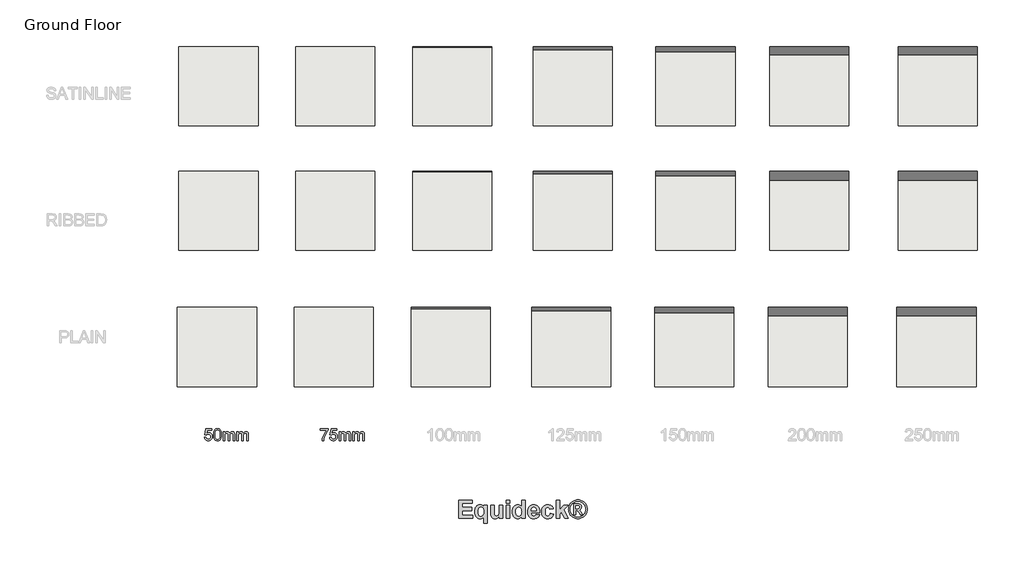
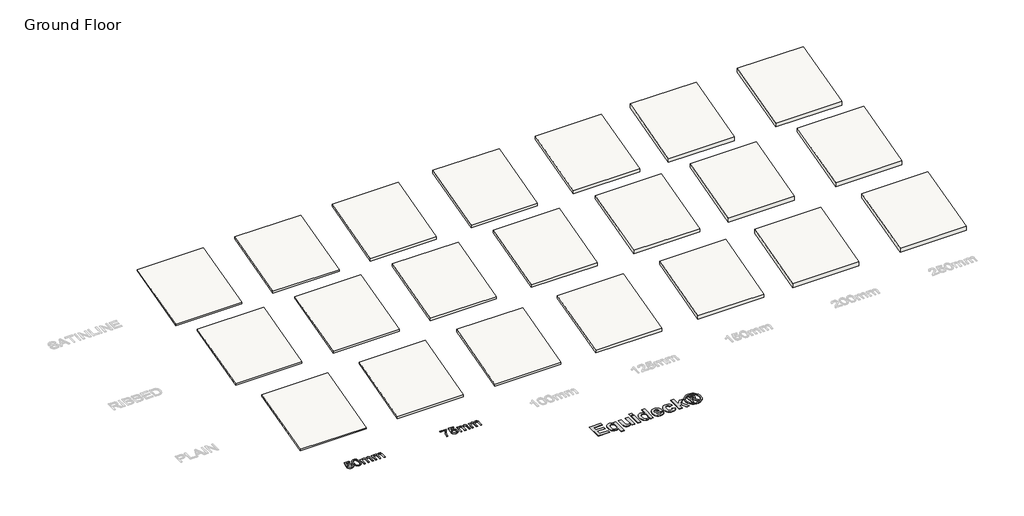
# One storey, part 1 of 3: 21 roofs, 3 proxies.
"""IFC4 building model written with IfcOpenShell, lengths in millimetres."""

from ifc_helpers import new_model, si_unit, frame, origin, origin_with_axes, place, context, project, spatial, polyline, outline, extrude, element, save

model = new_model("IFC4")

# Units and contexts
model_context = context("Model", 3, world=origin())
ifc_project = project(units=[si_unit("LENGTHUNIT", "METRE", prefix="MILLI")], contexts=[model_context])

# Site, building, storey
site = spatial("IfcSite", under=ifc_project)
building = spatial("IfcBuilding", under=site)
storey = spatial("IfcBuildingStorey", under=building, Name="Ground Floor", Elevation=0.0)

# Proxies
placement = place(None, origin())
element("IfcBuildingElementProxy", 1, Name="600mm Arial", ObjectType="600mm Arial", at=placement, inside=storey, context=model_context, shape_type="SweptSolid", body=[
    extrude(outline(polyline([(-8104.9680038, -2325.4851257), (-8029.6257712, -2316.0673466), (-8023.9971767, -2340.2877775), (-8015.7934082, -2361.2984379), (-8005.0144657, -2379.099328), (-7991.6603493, -2393.6904476), (-7975.7586501, -2405.0534027), (-7957.3369592, -2413.1697993), (-7936.3952766, -2418.0396372), (-7912.9336023, -2419.6629165), (-7884.2388067, -2417.4050407), (-7858.9285255, -2410.6314135), (-7837.0027585, -2399.3420348), (-7818.461506, -2383.5369045), (-7803.718635, -2363.9977721), (-7793.1880129, -2341.5063866), (-7786.8696396, -2316.0627481), (-7784.7635152, -2287.6668566), (-7786.7362824, -2260.8298651), (-7792.654584, -2236.9727177), (-7802.51842, -2216.0954144), (-7816.3277904, -2198.1979554), (-7834.1286805, -2183.8413605), (-7855.9670754, -2173.5866499), (-7881.8429752, -2167.4338235), (-7911.75638, -2165.3828814), (-7948.3054562, -2168.6570312), (-7977.9015627, -2178.4794804), (-8001.5379809, -2193.525854), (-8020.2079921, -2212.4717768), (-8095.5502248, -2203.0539977), (-8029.6257712, -1892.2672882), (-7737.6746198, -1892.2672882), (-7737.6746198, -1967.6095208), (-7968.7045128, -1967.6095208), (-8000.9309756, -2133.597877), (-7974.3423044, -2114.5415897), (-7947.1098397, -2100.9299559), (-7919.2335815, -2092.7629756), (-7890.7135298, -2090.0406488), (-7854.0218993, -2093.4159661), (-7820.3193101, -2103.541918), (-7789.605762, -2120.4185045), (-7761.8812551, -2144.0457257), (-7738.9300172, -2172.9796446), (-7722.5362757, -2205.7763245), (-7712.7000309, -2242.4357653), (-7709.4212826, -2282.9579671), (-7712.3735356, -2321.9902468), (-7721.2302947, -2358.3001997), (-7735.9915597, -2391.8878258), (-7756.6573308, -2422.7531252), (-7787.9640886, -2454.3633857), (-7824.4947707, -2476.9421431), (-7866.2493772, -2490.4893976), (-7913.2279079, -2495.0051491), (-7952.1084363, -2492.1034798), (-7987.2273713, -2483.3984721), (-8018.5847128, -2468.890126), (-8046.180461, -2448.5784413), (-8069.140896, -2423.4750936), (-8086.5922982, -2394.5917585), (-8098.5346674, -2361.9284359), (-8104.9680038, -2325.4851257)])), origin_with_axes(), (0.0, 0.0, 1.0), 20.0),
    extrude(outline(polyline([(-7643.4968291, -2189.0744819), (-7637.9602051, -2092.5974287), (-7631.039425, -2051.6843523), (-7621.350333, -2015.6549094), (-7608.9343156, -1984.2147944), (-7593.8327597, -1957.0697016), (-7576.0456653, -1934.2196312), (-7555.5730322, -1915.6645831), (-7532.3458828, -1901.3079882), (-7506.295239, -1891.0532776), (-7477.4211009, -1884.9004512), (-7445.7234685, -1882.8495091), (-7399.2967607, -1887.7055514), (-7357.7260952, -1902.2736785), (-7322.9612467, -1925.983673), (-7296.9519896, -1958.2653181), (-7277.3070911, -1998.8427022), (-7261.6353181, -2047.4399138), (-7251.3714104, -2109.1521184), (-7247.9501079, -2189.0744819), (-7253.4315496, -2284.9997121), (-7260.2833518, -2325.7748328), (-7269.8758748, -2361.7582904), (-7282.1953231, -2393.212201), (-7297.2279011, -2420.3986805), (-7314.9736089, -2443.3177288), (-7335.4324463, -2461.9693459), (-7358.6871869, -2476.4225098), (-7384.8206042, -2486.7461983), (-7413.832698, -2492.9404114), (-7445.7234685, -2495.0051491), (-7487.2205575, -2491.4182996), (-7524.008757, -2480.6577513), (-7556.088067, -2462.723504), (-7583.4584875, -2437.6155578), (-7609.7252619, -2392.2281167), (-7628.4872437, -2335.675457), (-7639.7444327, -2267.9575787), (-7643.4968291, -2189.0744819)]), holes=[polyline([(-7568.1545965, -2188.9273291), (-7565.9473045, -2254.4241198), (-7559.3254286, -2307.4405138), (-7548.2889687, -2347.9765112), (-7532.8379249, -2376.0321118), (-7514.1495196, -2395.1205889), (-7493.400975, -2408.7552153), (-7470.5922913, -2416.9359912), (-7445.7234685, -2419.6629165), (-7420.8546456, -2416.9267941), (-7398.0459619, -2408.7184271), (-7377.2974174, -2395.0378154), (-7358.609012, -2375.884959), (-7343.1579682, -2347.7833731), (-7332.1215084, -2307.2565728), (-7325.4996324, -2254.3045582), (-7323.2923405, -2188.9273291), (-7325.426056, -2125.1641823), (-7331.8272028, -2073.0812888), (-7342.4957806, -2032.6786487), (-7357.4317896, -2003.9562619), (-7375.8074953, -1983.9342843), (-7396.7951631, -1969.6328718), (-7420.3947931, -1961.0520242), (-7446.6063853, -1958.1917417), (-7471.3464494, -1960.7117334), (-7493.768857, -1968.2717084), (-7513.8736081, -1980.8716667), (-7531.6607025, -1998.5116084), (-7547.6267811, -2029.781578), (-7559.031123, -2071.9408546), (-7565.8737281, -2124.9894383), (-7568.1545965, -2188.9273291)])]), origin_with_axes(), (0.0, 0.0, 1.0), 20.0),
    extrude(outline(polyline([(-7163.1900962, -2485.58737), (-7163.1900962, -2042.9517534), (-7087.8478636, -2042.9517534), (-7087.8478636, -2115.7923885), (-7065.1863327, -2082.333521), (-7036.0500786, -2056.1219288), (-7001.4323829, -2039.180963), (-6962.3265268, -2033.5339743), (-6920.4247676, -2039.2913276), (-6902.5916878, -2046.4880191), (-6886.8371414, -2056.5633872), (-6861.7475893, -2084.2097192), (-6845.3400523, -2121.0898892), (-6817.8776614, -2082.7841764), (-6786.5525095, -2055.422953), (-6751.3645967, -2039.006219), (-6712.3139229, -2033.5339743), (-6682.1521978, -2035.8102442), (-6655.6784897, -2042.6390537), (-6632.8927987, -2054.0204029), (-6613.7951246, -2069.9542919), (-6598.6981672, -2090.6246615), (-6587.9146262, -2116.2154528), (-6581.4445016, -2146.7266657), (-6579.2877934, -2182.1583004), (-6579.2877934, -2485.58737), (-6654.630026, -2485.58737), (-6654.630026, -2214.531916), (-6656.3774655, -2176.9527702), (-6661.619784, -2151.6240948), (-6671.4422332, -2134.2784587), (-6686.9300652, -2120.6484308), (-6706.8508753, -2111.8192629), (-6729.9722587, -2108.8762069), (-6751.32321, -2110.7616022), (-6770.788766, -2116.4177879), (-6788.3689269, -2125.844764), (-6804.0636925, -2139.0425306), (-6816.971752, -2156.3973637), (-6826.1917945, -2178.2955394), (-6831.72382, -2204.7370578), (-6833.5678285, -2235.7219189), (-6833.5678285, -2485.58737), (-6908.9100611, -2485.58737), (-6908.9100611, -2206.1442065), (-6913.2694628, -2163.5434714), (-6918.7187148, -2146.8232348), (-6926.3476677, -2133.1564186), (-6936.459824, -2122.533826), (-6949.3586865, -2114.9462599), (-6965.044255, -2110.3937202), (-6983.5165297, -2108.8762069), (-7012.5424192, -2112.9229089), (-7039.2874402, -2125.0630147), (-7061.3603599, -2145.0022189), (-7076.3699453, -2172.4462157), (-7084.978384, -2210.5220022), (-7087.8478636, -2262.3565753), (-7087.8478636, -2485.58737), (-7163.1900962, -2485.58737)])), origin_with_axes(), (0.0, 0.0, 1.0), 20.0),
    extrude(outline(polyline([(-6466.2744445, -2485.58737), (-6466.2744445, -2042.9517534), (-6390.9322119, -2042.9517534), (-6390.9322119, -2115.7923885), (-6368.270681, -2082.333521), (-6339.134427, -2056.1219288), (-6304.5167312, -2039.180963), (-6265.4108751, -2033.5339743), (-6223.5091159, -2039.2913276), (-6205.6760362, -2046.4880191), (-6189.9214897, -2056.5633872), (-6164.8319377, -2084.2097192), (-6148.4244007, -2121.0898892), (-6120.9620097, -2082.7841764), (-6089.6368579, -2055.422953), (-6054.448945, -2039.006219), (-6015.3982712, -2033.5339743), (-5985.2365461, -2035.8102442), (-5958.7628381, -2042.6390537), (-5935.977147, -2054.0204029), (-5916.8794729, -2069.9542919), (-5901.7825155, -2090.6246615), (-5890.9989746, -2116.2154528), (-5884.52885, -2146.7266657), (-5882.3721418, -2182.1583004), (-5882.3721418, -2485.58737), (-5957.7143744, -2485.58737), (-5957.7143744, -2214.531916), (-5959.4618139, -2176.9527702), (-5964.7041323, -2151.6240948), (-5974.5265816, -2134.2784587), (-5990.0144136, -2120.6484308), (-6009.9352236, -2111.8192629), (-6033.056607, -2108.8762069), (-6054.4075583, -2110.7616022), (-6073.8731144, -2116.4177879), (-6091.4532752, -2125.844764), (-6107.1480408, -2139.0425306), (-6120.0561003, -2156.3973637), (-6129.2761428, -2178.2955394), (-6134.8081683, -2204.7370578), (-6136.6521768, -2235.7219189), (-6136.6521768, -2485.58737), (-6211.9944094, -2485.58737), (-6211.9944094, -2206.1442065), (-6216.3538111, -2163.5434714), (-6221.8030631, -2146.8232348), (-6229.432016, -2133.1564186), (-6239.5441724, -2122.533826), (-6252.4430348, -2114.9462599), (-6268.1286034, -2110.3937202), (-6286.6008781, -2108.8762069), (-6315.6267675, -2112.9229089), (-6342.3717885, -2125.0630147), (-6364.4447082, -2145.0022189), (-6379.4542937, -2172.4462157), (-6388.0627323, -2210.5220022), (-6390.9322119, -2262.3565753), (-6390.9322119, -2485.58737), (-6466.2744445, -2485.58737)])), origin_with_axes(), (0.0, 0.0, 1.0), 20.0),
])
element("IfcBuildingElementProxy", 2, Name="600mm Arial", ObjectType="600mm Arial", at=placement, inside=storey, context=model_context, shape_type="SweptSolid", body=[
    extrude(outline(polyline([(-2245.6761452, -1967.6095208), (-2245.6761452, -1892.2672882), (-1850.129424, -1892.2672882), (-1850.129424, -1953.1885466), (-1906.5073397, -2024.5392596), (-1962.3334325, -2115.2773537), (-2011.5744375, -2217.125484), (-2031.4630579, -2269.1118085), (-2048.1970902, -2321.8063058), (-2066.1497315, -2400.1283825), (-2076.1561218, -2485.58737), (-2151.4983544, -2485.58737), (-2143.3497682, -2407.9274808), (-2121.55276, -2315.6258882), (-2105.6832504, -2266.260723), (-2086.695941, -2217.7876716), (-2064.5908316, -2170.2067341), (-2039.3679223, -2123.5179104), (-1984.1120466, -2038.2980462), (-1925.4716566, -1967.6095208), (-2245.6761452, -1967.6095208)])), origin_with_axes(), (0.0, 0.0, 1.0), 20.0),
    extrude(outline(polyline([(-1784.2049704, -2325.4851257), (-1708.8627378, -2316.0673466), (-1703.2341433, -2340.2877775), (-1695.0303748, -2361.2984379), (-1684.2514323, -2379.099328), (-1670.8973159, -2393.6904476), (-1654.9956167, -2405.0534027), (-1636.5739258, -2413.1697993), (-1615.6322432, -2418.0396372), (-1592.1705689, -2419.6629165), (-1563.4757733, -2417.4050407), (-1538.165492, -2410.6314135), (-1516.2397251, -2399.3420348), (-1497.6984726, -2383.5369045), (-1482.9556016, -2363.9977721), (-1472.4249795, -2341.5063866), (-1466.1066062, -2316.0627481), (-1464.0004818, -2287.6668566), (-1465.973249, -2260.8298651), (-1471.8915506, -2236.9727177), (-1481.7553866, -2216.0954144), (-1495.564757, -2198.1979554), (-1513.365647, -2183.8413605), (-1535.204042, -2173.5866499), (-1561.0799418, -2167.4338235), (-1590.9933466, -2165.3828814), (-1627.5424228, -2168.6570312), (-1657.1385293, -2178.4794804), (-1680.7749475, -2193.525854), (-1699.4449587, -2212.4717768), (-1774.7871913, -2203.0539977), (-1708.8627378, -1892.2672882), (-1416.9115864, -1892.2672882), (-1416.9115864, -1967.6095208), (-1647.9414794, -1967.6095208), (-1680.1679422, -2133.597877), (-1653.579271, -2114.5415897), (-1626.3468063, -2100.9299559), (-1598.4705481, -2092.7629756), (-1569.9504964, -2090.0406488), (-1533.2588659, -2093.4159661), (-1499.5562767, -2103.541918), (-1468.8427286, -2120.4185045), (-1441.1182217, -2144.0457257), (-1418.1669837, -2172.9796446), (-1401.7732423, -2205.7763245), (-1391.9369975, -2242.4357653), (-1388.6582492, -2282.9579671), (-1391.6105022, -2321.9902468), (-1400.4672612, -2358.3001997), (-1415.2285263, -2391.8878258), (-1435.8942974, -2422.7531252), (-1467.2010552, -2454.3633857), (-1503.7317373, -2476.9421431), (-1545.4863437, -2490.4893976), (-1592.4648745, -2495.0051491), (-1631.3454029, -2492.1034798), (-1666.4643379, -2483.3984721), (-1697.8216794, -2468.890126), (-1725.4174276, -2448.5784413), (-1748.3778626, -2423.4750936), (-1765.8292648, -2394.5917585), (-1777.771634, -2361.9284359), (-1784.2049704, -2325.4851257)])), origin_with_axes(), (0.0, 0.0, 1.0), 20.0),
    extrude(outline(polyline([(-1303.8982375, -2485.58737), (-1303.8982375, -2042.9517534), (-1228.5560049, -2042.9517534), (-1228.5560049, -2115.7923885), (-1205.894474, -2082.333521), (-1176.75822, -2056.1219288), (-1142.1405242, -2039.180963), (-1103.0346681, -2033.5339743), (-1061.1329089, -2039.2913276), (-1043.2998292, -2046.4880191), (-1027.5452827, -2056.5633872), (-1002.4557307, -2084.2097192), (-986.0481937, -2121.0898892), (-958.5858027, -2082.7841764), (-927.2606509, -2055.422953), (-892.072738, -2039.006219), (-853.0220642, -2033.5339743), (-822.8603391, -2035.8102442), (-796.3866311, -2042.6390537), (-773.60094, -2054.0204029), (-754.5032659, -2069.9542919), (-739.4063085, -2090.6246615), (-728.6227676, -2116.2154528), (-722.152643, -2146.7266657), (-719.9959348, -2182.1583004), (-719.9959348, -2485.58737), (-795.3381674, -2485.58737), (-795.3381674, -2214.531916), (-797.0856069, -2176.9527702), (-802.3279253, -2151.6240948), (-812.1503746, -2134.2784587), (-827.6382066, -2120.6484308), (-847.5590166, -2111.8192629), (-870.6804, -2108.8762069), (-892.0313513, -2110.7616022), (-911.4969074, -2116.4177879), (-929.0770682, -2125.844764), (-944.7718338, -2139.0425306), (-957.6798933, -2156.3973637), (-966.8999358, -2178.2955394), (-972.4319613, -2204.7370578), (-974.2759698, -2235.7219189), (-974.2759698, -2485.58737), (-1049.6182024, -2485.58737), (-1049.6182024, -2206.1442065), (-1053.9776041, -2163.5434714), (-1059.4268561, -2146.8232348), (-1067.055809, -2133.1564186), (-1077.1679654, -2122.533826), (-1090.0668278, -2114.9462599), (-1105.7523964, -2110.3937202), (-1124.2246711, -2108.8762069), (-1153.2505605, -2112.9229089), (-1179.9955815, -2125.0630147), (-1202.0685013, -2145.0022189), (-1217.0780867, -2172.4462157), (-1225.6865253, -2210.5220022), (-1228.5560049, -2262.3565753), (-1228.5560049, -2485.58737), (-1303.8982375, -2485.58737)])), origin_with_axes(), (0.0, 0.0, 1.0), 20.0),
    extrude(outline(polyline([(-606.9825859, -2485.58737), (-606.9825859, -2042.9517534), (-531.6403532, -2042.9517534), (-531.6403532, -2115.7923885), (-508.9788223, -2082.333521), (-479.8425683, -2056.1219288), (-445.2248726, -2039.180963), (-406.1190165, -2033.5339743), (-364.2172572, -2039.2913276), (-346.3841775, -2046.4880191), (-330.6296311, -2056.5633872), (-305.540079, -2084.2097192), (-289.132542, -2121.0898892), (-261.6701511, -2082.7841764), (-230.3449992, -2055.422953), (-195.1570864, -2039.006219), (-156.1064126, -2033.5339743), (-125.9446875, -2035.8102442), (-99.4709794, -2042.6390537), (-76.6852883, -2054.0204029), (-57.5876143, -2069.9542919), (-42.4906569, -2090.6246615), (-31.7071159, -2116.2154528), (-25.2369913, -2146.7266657), (-23.0802831, -2182.1583004), (-23.0802831, -2485.58737), (-98.4225157, -2485.58737), (-98.4225157, -2214.531916), (-100.1699552, -2176.9527702), (-105.4122736, -2151.6240948), (-115.2347229, -2134.2784587), (-130.7225549, -2120.6484308), (-150.6433649, -2111.8192629), (-173.7647483, -2108.8762069), (-195.1156996, -2110.7616022), (-214.5812557, -2116.4177879), (-232.1614165, -2125.844764), (-247.8561822, -2139.0425306), (-260.7642417, -2156.3973637), (-269.9842842, -2178.2955394), (-275.5163097, -2204.7370578), (-277.3603182, -2235.7219189), (-277.3603182, -2485.58737), (-352.7025508, -2485.58737), (-352.7025508, -2206.1442065), (-357.0619524, -2163.5434714), (-362.5112045, -2146.8232348), (-370.1401574, -2133.1564186), (-380.2523137, -2122.533826), (-393.1511762, -2114.9462599), (-408.8367447, -2110.3937202), (-427.3090194, -2108.8762069), (-456.3349088, -2112.9229089), (-483.0799299, -2125.0630147), (-505.1528496, -2145.0022189), (-520.162435, -2172.4462157), (-528.7708737, -2210.5220022), (-531.6403532, -2262.3565753), (-531.6403532, -2485.58737), (-606.9825859, -2485.58737)])), origin_with_axes(), (0.0, 0.0, 1.0), 20.0),
])
element("IfcBuildingElementProxy", 3, Name="900mm Arial", ObjectType="900mm Arial", at=placement, inside=storey, context=model_context, shape_type="SweptSolid", body=[
    extrude(outline(polyline([(4738.3193538, -6419.7488861), (4738.3193538, -5497.7851027), (5426.1336049, -5497.7851027), (5426.1336049, -5658.7629062), (4913.931503, -5658.7629062), (4913.931503, -5863.6437469), (5396.8649133, -5863.6437469), (5396.8649133, -6024.6215504), (4913.931503, -6024.6215504), (4913.931503, -6258.7710827), (5440.7679506, -6258.7710827), (5440.7679506, -6419.7488861), (4738.3193538, -6419.7488861)])), origin_with_axes(), (0.0, 0.0, 1.0), 20.0),
    extrude(outline(polyline([(6011.5074356, -6668.5327642), (6011.5074356, -6338.8026611), (5972.9779471, -6378.3325443), (5925.9879775, -6408.658796), (5899.877675, -6419.9132367), (5872.7669778, -6427.9521229), (5844.6558859, -6432.7754547), (5815.5443993, -6434.3832319), (5761.4659184, -6429.0096831), (5712.4179939, -6412.8890366), (5668.4006258, -6386.0212924), (5629.413814, -6348.4064505), (5609.2094133, -6322.1353703), (5591.6989327, -6293.6276934), (5576.8823722, -6262.8834196), (5564.7597318, -6229.902549), (5548.5962112, -6157.2310176), (5543.208371, -6075.6130989), (5548.1174509, -5999.0114453), (5562.8446904, -5931.3275961), (5587.3900897, -5872.5615514), (5603.3445992, -5846.5227057), (5621.7536487, -5822.7133111), (5663.3915065, -5782.9976403), (5709.7598022, -5754.6293041), (5760.8585359, -5737.6083023), (5816.6877075, -5731.934635), (5847.835712, -5733.6710345), (5876.7971395, -5738.8802327), (5903.5719899, -5747.5622299), (5928.1602632, -5759.7170258), (5950.9907001, -5775.4160774), (5972.4920411, -5794.7308414), (5992.6642863, -5817.6613177), (6011.5074356, -5844.2075065), (6011.5074356, -5746.5689808), (6187.1195848, -5746.5689808), (6187.1195848, -6668.5327642), (6011.5074356, -6668.5327642)]), holes=[polyline([(6011.5074356, -6075.3844373), (6008.9278463, -6025.2003502), (6001.1890785, -5981.8904041), (5988.2911322, -5945.4545988), (5970.2340073, -5915.8929346), (5948.3039257, -5893.033915), (5923.7871091, -5876.7060439), (5896.6835576, -5866.9093212), (5866.9932711, -5863.6437469), (5836.7241849, -5866.9736323), (5809.0275422, -5876.9632882), (5783.9033431, -5893.6127148), (5761.3515876, -5916.921912), (5742.7442456, -5947.4482426), (5729.4532871, -5985.7490694), (5721.4787119, -6031.8243925), (5718.8205202, -6085.6742116), (5721.3786725, -6139.1810384), (5729.0531292, -6184.6847072), (5741.8438904, -6222.1852183), (5759.750956, -6251.6825715), (5781.4166476, -6273.9913739), (5805.4832866, -6289.9262329), (5831.9508729, -6299.4871482), (5860.8194065, -6302.67412), (5889.9594759, -6299.1012817), (5917.2416693, -6288.3827667), (5942.6659868, -6270.5185751), (5966.2324284, -6245.5087068), (5986.040244, -6213.4389101), (6000.1886838, -6174.3949329), (6008.6777476, -6128.3767753), (6011.5074356, -6075.3844373)])]), origin_with_axes(), (0.0, 0.0, 1.0), 20.0),
    extrude(outline(polyline([(6787.1277613, -6419.7488861), (6787.1277613, -6320.9670522), (6768.2703206, -6345.9697748), (6746.6832315, -6368.1571008), (6722.3664939, -6387.5290301), (6695.3201078, -6404.0855629), (6666.5015939, -6417.3407931), (6636.8684728, -6426.8088147), (6606.4207446, -6432.4896276), (6575.1584093, -6434.3832319), (6543.8460542, -6432.525356), (6514.1629135, -6426.9517282), (6486.108987, -6417.6623486), (6459.6842747, -6404.6572171), (6435.8462974, -6388.2864719), (6415.5525758, -6368.9002511), (6398.8031097, -6346.4985548), (6385.5978993, -6321.081383), (6375.593952, -6291.5768842), (6368.4482753, -6256.9132068), (6364.1608693, -6217.0903508), (6362.731734, -6172.1083163), (6362.731734, -5746.5689808), (6538.3438832, -5746.5689808), (6538.3438832, -6057.77749), (6540.7162479, -6172.9943802), (6547.8333418, -6232.8179851), (6561.2672139, -6261.6293533), (6582.589913, -6283.8095336), (6611.2583677, -6297.9579734), (6646.7295066, -6302.67412), (6668.3308871, -6301.1020711), (6688.774668, -6296.3859245), (6708.0608492, -6288.5256802), (6726.1894309, -6277.5213382), (6755.7439495, -6249.3102068), (6774.2083779, -6214.9823762), (6779.8606081, -6189.5366217), (6783.8979154, -6150.5855383), (6787.1277613, -6032.1673849), (6787.1277613, -5746.5689808), (6962.7399105, -5746.5689808), (6962.7399105, -6419.7488861), (6787.1277613, -6419.7488861)])), origin_with_axes(), (0.0, 0.0, 1.0), 20.0),
    extrude(outline(polyline([(7138.3520597, -6419.7488861), (7138.3520597, -5746.5689808), (7313.9642089, -5746.5689808), (7313.9642089, -6419.7488861), (7138.3520597, -6419.7488861)])), origin_with_axes(), (0.0, 0.0, 1.0), 20.0),
    extrude(outline(polyline([(7138.3520597, -5658.7629062), (7138.3520597, -5497.7851027), (7313.9642089, -5497.7851027), (7313.9642089, -5658.7629062), (7138.3520597, -5658.7629062)])), origin_with_axes(), (0.0, 0.0, 1.0), 20.0),
    extrude(outline(polyline([(8089.5845347, -6419.7488861), (7913.9723854, -6419.7488861), (7913.9723854, -6322.7963454), (7893.4285651, -6349.2282033), (7871.1269083, -6372.0443489), (7847.067415, -6391.244782), (7821.2500853, -6406.8295028), (7794.5038176, -6418.8842593), (7767.6575105, -6427.4947996), (7740.7111638, -6432.6611238), (7713.6647777, -6434.3832319), (7660.4223411, -6428.5523598), (7611.1386092, -6411.0597433), (7565.8135823, -6381.9053826), (7524.4472602, -6341.0892776), (7505.9846182, -6316.6117623), (7489.9836617, -6289.8261934), (7465.3668057, -6229.3308949), (7450.5966921, -6159.6033822), (7445.6733209, -6080.6436553), (7450.5895464, -6000.3548325), (7465.338223, -5930.2986187), (7476.3997304, -5899.1077401), (7489.9193506, -5870.4750138), (7505.8970836, -5844.4004397), (7524.3329294, -5820.8840179), (7566.2637599, -5781.9686629), (7613.3966431, -5754.1719807), (7665.7315788, -5737.4939715), (7723.2685671, -5731.934635), (7776.5181495, -5737.6940504), (7826.05198, -5754.9722965), (7871.8700586, -5783.7693734), (7913.9723854, -5824.085281), (7913.9723854, -5497.7851027), (8089.5845347, -5497.7851027), (8089.5845347, -6419.7488861)]), holes=[polyline([(7621.2854701, -6070.3538809), (7623.1147633, -6121.974249), (7628.602643, -6165.9344517), (7637.7491091, -6202.2344891), (7650.5541616, -6230.8743611), (7673.8061934, -6262.2867556), (7701.2598831, -6284.7241803), (7732.9152306, -6298.1866351), (7768.772236, -6302.67412), (7797.9265967, -6299.3085063), (7824.7943409, -6289.2116652), (7849.3754686, -6272.3835967), (7871.6699797, -6248.8243008), (7890.1772822, -6218.5766516), (7903.396784, -6181.683523), (7911.3284851, -6138.1449152), (7913.9723854, -6087.9608282), (7911.4070875, -6032.4603577), (7903.7111938, -5985.3203288), (7890.8847042, -5946.5407417), (7872.9276188, -5916.1215962), (7850.9546631, -5893.1625372), (7826.0805627, -5876.7632093), (7798.3053176, -5866.9236125), (7767.6289278, -5863.6437469), (7737.7885821, -5866.8878841), (7710.4635146, -5876.6202957), (7685.6537253, -5892.8409817), (7663.3592142, -5915.5499421), (7644.9519511, -5944.6900114), (7631.8039061, -5980.2040244), (7623.9150791, -6022.0919809), (7621.2854701, -6070.3538809)])]), origin_with_axes(), (0.0, 0.0, 1.0), 20.0),
    extrude(outline(polyline([(8645.6896738, -6214.8680454), (8821.3018231, -6244.1367369), (8802.3229059, -6287.889715), (8778.542094, -6326.0833567), (8749.9593874, -6358.7176619), (8716.5747862, -6385.7926307), (8678.5454951, -6407.0510187), (8636.028719, -6422.2355816), (8589.0244581, -6431.3463193), (8537.5327121, -6434.3832319), (8496.3843332, -6432.5932399), (8458.0013311, -6427.2232639), (8422.3837059, -6418.2733039), (8389.5314575, -6405.7433599), (8359.444586, -6389.6334319), (8332.1230913, -6369.9435199), (8307.5669735, -6346.6736239), (8285.7762326, -6319.8237439), (8257.5651012, -6270.961607), (8237.4142931, -6216.0685191), (8225.3238082, -6155.14448), (8221.2936466, -6088.1894898), (8226.6386127, -6009.2440543), (8242.6735111, -5939.330754), (8254.6996849, -5907.7611545), (8269.3983417, -5878.449589), (8286.7694817, -5851.3960572), (8306.8131046, -5826.6005592), (8352.4025216, -5785.1842174), (8377.3194961, -5768.9135117), (8403.6513145, -5755.6011161), (8431.3979769, -5745.2470306), (8460.5594833, -5737.8512553), (8523.127028, -5731.934635), (8558.8589841, -5733.4530913), (8592.6544618, -5738.0084602), (8624.5134611, -5745.6007416), (8654.4359821, -5756.2299356), (8682.4220246, -5769.8960422), (8708.4715888, -5786.5990614), (8732.5846747, -5806.3389931), (8754.7612821, -5829.1158374), (8774.586962, -5855.0296337), (8791.647265, -5884.1804216), (8805.9421911, -5916.568201), (8817.4717404, -5952.1929719), (8826.2359128, -5991.0547344), (8832.2347083, -6033.1534883), (8835.9361688, -6127.0619708), (8396.9057958, -6127.0619708), (8400.1785157, -6166.3631923), (8408.1673822, -6201.0340154), (8420.8723953, -6231.07444), (8438.2935549, -6256.4844662), (8459.2875529, -6276.6924397), (8482.7110809, -6291.1267065), (8508.564139, -6299.7872666), (8536.8467272, -6302.67412), (8573.7184187, -6297.4720674), (8604.3019147, -6281.8659096), (8617.178424, -6269.8754642), (8628.3685537, -6254.7123383), (8645.6896738, -6214.8680454)]), holes=[polyline([(8660.3240196, -6024.6215504), (8657.1942132, -5987.5426343), (8649.6340874, -5955.1941561), (8637.6436419, -5927.5761159), (8621.222877, -5904.6885136), (8601.5865576, -5886.7314282), (8579.9494487, -5873.9049386), (8556.3115504, -5866.2090449), (8530.6728626, -5863.6437469), (8503.4335432, -5866.3448127), (8478.6523366, -5874.44801), (8456.3292428, -5887.9533389), (8436.4642617, -5906.8607993), (8420.2864498, -5930.512989), (8408.7962017, -5958.0238441), (8401.9935176, -5989.3933645), (8399.8783973, -6024.6215504), (8660.3240196, -6024.6215504)])]), origin_with_axes(), (0.0, 0.0, 1.0), 20.0),
    extrude(outline(polyline([(9523.7504199, -5936.8154758), (9348.1382707, -5966.0841673), (9342.7147021, -5942.1675876), (9334.6758159, -5921.4093969), (9324.021612, -5903.8095954), (9310.7520905, -5889.3681829), (9295.0816216, -5878.1137421), (9277.2245757, -5870.0748559), (9257.1809527, -5865.2515242), (9234.9507527, -5863.6437469), (9205.5391476, -5866.6592225), (9179.2716402, -5875.7056491), (9156.1482306, -5890.7830268), (9136.1689187, -5911.8913556), (9120.0625636, -5940.059613), (9108.5580242, -5976.3167763), (9101.6553005, -6020.6628455), (9099.3543927, -6073.0978208), (9101.7481943, -6131.3636681), (9108.9295994, -6180.3973012), (9120.8986077, -6220.1987202), (9137.6552195, -6250.7679248), (9158.4419928, -6273.4768852), (9182.5014861, -6289.6975712), (9209.8336993, -6299.4299828), (9240.4386323, -6302.67412), (9263.4691482, -6300.8233897), (9284.3130869, -6295.271199), (9302.9704486, -6286.0175477), (9319.4412333, -6273.062436), (9333.6825669, -6255.5769652), (9345.6515752, -6232.732237), (9355.3482584, -6204.5282513), (9362.7726165, -6170.9650081), (9538.3847657, -6200.2336996), (9522.1998081, -6254.6480273), (9499.9410254, -6301.9595523), (9471.6084175, -6342.1682748), (9437.2019844, -6375.2741947), (9396.5788127, -6401.1343985), (9349.5959887, -6419.6059726), (9296.2535126, -6430.6889171), (9236.5513842, -6434.3832319), (9168.7174758, -6428.5666511), (9137.5176652, -6421.2959251), (9108.1292836, -6411.1169087), (9080.552331, -6398.029602), (9054.7868074, -6382.0340048), (9030.8327129, -6363.1301172), (9008.6900474, -6341.3179393), (8988.7804058, -6316.9368906), (8971.5253832, -6290.3263907), (8956.9249794, -6261.4864398), (8944.9791944, -6230.4170378), (8929.0514812, -6161.5898803), (8923.7422434, -6083.8449184), (8929.0157528, -6005.2210383), (8944.8362809, -5935.8150811), (8956.701677, -5904.5688235), (8971.2038277, -5875.6270467), (8988.3427331, -5848.9897506), (9008.1183933, -5824.6569352), (9030.1449415, -5802.9251461), (9054.0365114, -5784.0909289), (9079.7931028, -5768.1542835), (9107.4147159, -5755.1152101), (9136.9013506, -5744.9737085), (9168.2530069, -5737.7297788), (9236.5513842, -5731.934635), (9292.4162842, -5735.1001698), (9342.2502332, -5744.596774), (9386.053231, -5760.4244478), (9423.8252777, -5782.5831911), (9456.1380275, -5811.2159174), (9483.5631345, -5846.4655403), (9506.1005986, -5888.3320598), (9523.7504199, -5936.8154758)])), origin_with_axes(), (0.0, 0.0, 1.0), 20.0),
    extrude(outline(polyline([(9670.0938776, -6419.7488861), (9670.0938776, -5497.7851027), (9845.7060268, -5497.7851027), (9845.7060268, -5983.6911146), (10057.9040405, -5746.5689808), (10262.7848812, -5746.5689808), (10037.0958301, -5993.9808889), (10277.419227, -6419.7488861), (10101.8070778, -6419.7488861), (9924.1369737, -6118.1441663), (9845.7060268, -6204.1209477), (9845.7060268, -6419.7488861), (9670.0938776, -6419.7488861)])), origin_with_axes(), (0.0, 0.0, 1.0), 20.0),
    extrude(outline(polyline([(10548.1546237, -6229.5023911), (10548.1546237, -5688.0315977), (10647.1651193, -5688.0315977), (10802.8837047, -5689.4035676), (10846.5866631, -5697.0923157), (10879.3710275, -5711.0120938), (10904.4380612, -5732.5348719), (10924.9890272, -5763.0326198), (10938.7087264, -5799.9043113), (10943.2819594, -5840.54892), (10941.1596935, -5868.7600514), (10934.7928956, -5894.8560625), (10924.1815658, -5918.8369533), (10909.325704, -5940.7027239), (10890.6254682, -5959.5387275), (10868.4810163, -5974.4303176), (10842.8923483, -5985.3774943), (10813.8594641, -5992.3802574), (10834.124603, -6002.155543), (10849.1876894, -6012.7311445), (10883.3726065, -6054.3475652), (10920.6444558, -6120.2021212), (10972.550651, -6229.5023911), (10870.1102306, -6229.5023911), (10819.5760054, -6142.8396248), (10774.6154079, -6071.4971892), (10742.174036, -6032.6247082), (10728.2042381, -6022.7208004), (10712.4766038, -6015.6465805), (10675.7478259, -6009.9872046), (10650.5950441, -6009.9872046), (10650.5950441, -6229.5023911), (10548.1546237, -6229.5023911)]), holes=[polyline([(10650.5950441, -5922.18113), (10690.6108333, -5922.18113), (10759.7238178, -5920.3804195), (10796.4811785, -5914.978288), (10814.8884415, -5905.0315061), (10828.9511331, -5889.5968445), (10837.8689376, -5870.1891868), (10840.8415391, -5848.3234162), (10837.926103, -5827.1436306), (10829.1797948, -5808.4219578), (10815.0599377, -5793.4160369), (10796.0238551, -5783.3835069), (10758.923502, -5777.724131), (10690.6108333, -5775.8376723), (10650.5950441, -5775.8376723), (10650.5950441, -5922.18113)])]), origin_with_axes(), (0.0, 0.0, 1.0), 20.0),
    extrude(outline(polyline([(10760.3526373, -5483.150757), (10820.8979555, -5486.973694), (10880.199926, -5498.442505), (10938.2585488, -5517.55719), (10995.0738238, -5544.3177491), (11048.259095, -5578.2168391), (11095.4277066, -5618.747117), (11136.5796584, -5665.9085828), (11171.7149504, -5719.7012366), (11199.8260423, -5777.4740323), (11219.9053937, -5836.5759238), (11231.9530045, -5897.0069112), (11235.9688748, -5958.7669944), (11232.031607, -6020.1340655), (11220.2198035, -6080.0720012), (11200.5334643, -6138.5808015), (11172.9725895, -6195.6604666), (11138.3660775, -6248.9171946), (11097.5428268, -6295.9571839), (11050.5028375, -6336.7804346), (10997.2461095, -6371.3869466), (10940.1664444, -6398.9478214), (10881.6576441, -6418.6341606), (10821.7197084, -6430.4459641), (10760.3526373, -6434.3832319), (10698.9855663, -6430.4459641), (10639.0476306, -6418.6341606), (10580.5388303, -6398.9478214), (10523.4591652, -6371.3869466), (10470.2024372, -6336.7804346), (10423.1624478, -6295.9571839), (10382.3391972, -6248.9171946), (10347.7326852, -6195.6604666), (10320.1718104, -6138.5808015), (10300.4854712, -6080.0720012), (10288.6736677, -6020.1340655), (10284.7363999, -5958.7669944), (10288.7522701, -5897.0069112), (10300.799881, -5836.5759238), (10320.8792323, -5777.4740323), (10348.9903243, -5719.7012366), (10384.1256163, -5665.9085828), (10425.2775681, -5618.747117), (10472.4461797, -5578.2168391), (10525.6314509, -5544.3177491), (10582.4467259, -5517.55719), (10640.5053487, -5498.442505), (10699.8073191, -5486.973694), (10760.3526373, -5483.150757)]), holes=[polyline([(10760.1239757, -5570.9568316), (10710.7973698, -5574.0652009), (10662.5140327, -5583.3903089), (10615.2739644, -5598.9321556), (10569.0771649, -5620.690741), (10525.8243842, -5648.2659072), (10487.4163722, -5681.2574963), (10453.853129, -5719.6655082), (10425.1346546, -5763.4899431), (10402.1255758, -5810.5799522), (10385.6905195, -5858.7846868), (10375.8294857, -5908.104147), (10372.5424745, -5958.5383328), (10375.7508833, -6008.5937977), (10385.3761097, -6057.4630803), (10401.4181538, -6105.1461805), (10423.8770155, -6151.6430984), (10452.0881469, -6195.031647), (10485.3870001, -6233.3896392), (10523.773575, -6266.7170751), (10567.2478717, -6295.0139546), (10613.8162464, -6317.5728558), (10661.4850553, -6333.6863566), (10710.2542984, -6343.3544571), (10760.1239757, -6346.5771573), (10810.1722949, -6343.3544571), (10859.0201404, -6333.6863566), (10906.6675123, -6317.5728558), (10953.1144105, -6295.0139546), (10996.460085, -6266.7170751), (11034.8037859, -6233.3896392), (11068.1455131, -6195.031647), (11096.4852667, -6151.6430984), (11119.0941876, -6105.1461805), (11135.2434168, -6057.4630803), (11144.9329543, -6008.5937977), (11148.1628002, -5958.5383328), (11144.8757889, -5908.104147), (11135.0147552, -5858.7846868), (11118.5796989, -5810.5799522), (11095.5706201, -5763.4899431), (11066.8307086, -5719.6655082), (11033.2031543, -5681.2574963), (10994.6879572, -5648.2659072), (10951.2851173, -5620.690741), (10904.9525499, -5598.9321556), (10857.6481705, -5583.3903089), (10809.3719791, -5574.0652009), (10760.1239757, -5570.9568316)])]), origin_with_axes(), (0.0, 0.0, 1.0), 20.0),
])

# Roofs
element("IfcRoof", 4, ObjectType="InsulatedPanels_Bondor_Equideck_Ribbed_50mm_Surfmist", at=placement, inside=storey, context=model_context, shape_type="SweptSolid", body=[
    extrude(outline(polyline([(7117.3153758, 93.1748562), (11117.3153758, 1164.971626), (11117.3153758, 1071.7967697), (7117.3153758, 0.0), (7117.3153758, 93.1748562)])), frame((-9394.1046418, 0.0, 0.0), z_axis=(1.0, 0.0, 0.0), x_axis=(0.0, 1.0, 0.0)), (0.0, 0.0, 1.0), 4000.0),
])
element("IfcRoof", 5, ObjectType="InsulatedPanels_Bondor_Equideck_Ribbed_75mm_Surfmist", at=placement, inside=storey, context=model_context, shape_type="SweptSolid", body=[
    extrude(outline(polyline([(7117.3153758, 119.0567607), (11117.3153758, 1190.8535305), (11117.3153758, 1071.7967697), (7117.3153758, 0.0), (7117.3153758, 119.0567607)])), frame((-3494.1046418, 0.0, 0.0), z_axis=(1.0, 0.0, 0.0), x_axis=(0.0, 1.0, 0.0)), (0.0, 0.0, 1.0), 4000.0),
])
element("IfcRoof", 6, ObjectType="InsulatedPanels_Bondor_Equideck_Ribbed_100mm_Surfmist", at=placement, inside=storey, context=model_context, shape_type="SweptSolid", body=[
    extrude(outline(polyline([(7117.3153758, 144.9386653), (11117.3153758, 1216.735435), (11117.3153758, 1071.7967697), (7117.3153758, 0.0), (7117.3153758, 144.9386653)])), frame((2405.8953582, 0.0, 0.0), z_axis=(1.0, 0.0, 0.0), x_axis=(0.0, 1.0, 0.0)), (0.0, 0.0, 1.0), 4000.0),
])
element("IfcRoof", 7, ObjectType="InsulatedPanels_Bondor_Equideck_Ribbed_125mm_Surfmist", at=placement, inside=storey, context=model_context, shape_type="SweptSolid", body=[
    extrude(outline(polyline([(7117.3153758, 170.8205698), (11117.3153758, 1242.6173395), (11117.3153758, 1071.7967697), (7117.3153758, 0.0), (7117.3153758, 170.8205698)])), frame((8505.8953582, 0.0, 0.0), z_axis=(1.0, 0.0, 0.0), x_axis=(0.0, 1.0, 0.0)), (0.0, 0.0, 1.0), 4000.0),
])
element("IfcRoof", 8, ObjectType="InsulatedPanels_Bondor_Equideck_Ribbed_150mm_Surfmist", at=placement, inside=storey, context=model_context, shape_type="SweptSolid", body=[
    extrude(outline(polyline([(7117.3153758, 196.7024743), (11117.3153758, 1268.499244), (11117.3153758, 1071.7967697), (7117.3153758, 0.0), (7117.3153758, 196.7024743)])), frame((14705.8953582, 0.0, 0.0), z_axis=(1.0, 0.0, 0.0), x_axis=(0.0, 1.0, 0.0)), (0.0, 0.0, 1.0), 4000.0),
])
element("IfcRoof", 9, ObjectType="InsulatedPanels_Bondor_Equideck_Ribbed_200mm_Surfmist", at=placement, inside=storey, context=model_context, shape_type="SweptSolid", body=[
    extrude(outline(polyline([(7117.3153758, 248.4662833), (11117.3153758, 1320.263053), (11117.3153758, 1071.7967697), (7117.3153758, 0.0), (7117.3153758, 248.4662833)])), frame((20445.8953582, 0.0, 0.0), z_axis=(1.0, 0.0, 0.0), x_axis=(0.0, 1.0, 0.0)), (0.0, 0.0, 1.0), 4000.0),
])
element("IfcRoof", 10, ObjectType="InsulatedPanels_Bondor_Equideck_Plain_50mm_Surfmist", at=placement, inside=storey, context=model_context, shape_type="SweptSolid", body=[
    extrude(outline(polyline([(237.1308894, 93.1748562), (4237.1308894, 1164.971626), (4237.1308894, 1071.7967697), (237.1308894, 0.0), (237.1308894, 93.1748562)])), frame((-9467.07943, 0.0, 0.0), z_axis=(1.0, 0.0, 0.0), x_axis=(0.0, 1.0, 0.0)), (0.0, 0.0, 1.0), 4000.0),
])
element("IfcRoof", 11, ObjectType="InsulatedPanels_Bondor_Equideck_Plain_75mm_Surfmist", at=placement, inside=storey, context=model_context, shape_type="SweptSolid", body=[
    extrude(outline(polyline([(237.1308894, 119.0567607), (4237.1308894, 1190.8535305), (4237.1308894, 1071.7967697), (237.1308894, 0.0), (237.1308894, 119.0567607)])), frame((-3567.07943, 0.0, 0.0), z_axis=(1.0, 0.0, 0.0), x_axis=(0.0, 1.0, 0.0)), (0.0, 0.0, 1.0), 4000.0),
])
element("IfcRoof", 12, ObjectType="InsulatedPanels_Bondor_Equideck_Plain_100mm_Surfmist", at=placement, inside=storey, context=model_context, shape_type="SweptSolid", body=[
    extrude(outline(polyline([(237.1308894, 144.9386653), (4237.1308894, 1216.735435), (4237.1308894, 1071.7967697), (237.1308894, 0.0), (237.1308894, 144.9386653)])), frame((2332.92057, 0.0, 0.0), z_axis=(1.0, 0.0, 0.0), x_axis=(0.0, 1.0, 0.0)), (0.0, 0.0, 1.0), 4000.0),
])
element("IfcRoof", 13, ObjectType="InsulatedPanels_Bondor_Equideck_Plain_125mm_Surfmist", at=placement, inside=storey, context=model_context, shape_type="SweptSolid", body=[
    extrude(outline(polyline([(237.1308894, 170.8205698), (4237.1308894, 1242.6173395), (4237.1308894, 1071.7967697), (237.1308894, 0.0), (237.1308894, 170.8205698)])), frame((8432.92057, 0.0, 0.0), z_axis=(1.0, 0.0, 0.0), x_axis=(0.0, 1.0, 0.0)), (0.0, 0.0, 1.0), 4000.0),
])
element("IfcRoof", 14, ObjectType="InsulatedPanels_Bondor_Equideck_Plain_150mm_Surfmist", at=placement, inside=storey, context=model_context, shape_type="SweptSolid", body=[
    extrude(outline(polyline([(237.1308894, 196.7024743), (4237.1308894, 1268.499244), (4237.1308894, 1071.7967697), (237.1308894, 0.0), (237.1308894, 196.7024743)])), frame((14632.92057, 0.0, 0.0), z_axis=(1.0, 0.0, 0.0), x_axis=(0.0, 1.0, 0.0)), (0.0, 0.0, 1.0), 4000.0),
])
element("IfcRoof", 15, ObjectType="InsulatedPanels_Bondor_Equideck_Plain_200mm_Surfmist", at=placement, inside=storey, context=model_context, shape_type="SweptSolid", body=[
    extrude(outline(polyline([(237.1308894, 248.4662833), (4237.1308894, 1320.263053), (4237.1308894, 1071.7967697), (237.1308894, 0.0), (237.1308894, 248.4662833)])), frame((20372.92057, 0.0, 0.0), z_axis=(1.0, 0.0, 0.0), x_axis=(0.0, 1.0, 0.0)), (0.0, 0.0, 1.0), 4000.0),
])
element("IfcRoof", 16, ObjectType="InsulatedPanels_Bondor_Equideck_Ribbed_250mm_Surfmist", at=placement, inside=storey, context=model_context, shape_type="SweptSolid", body=[
    extrude(outline(polyline([(7117.3153758, 248.4662833), (11117.3153758, 1320.263053), (11117.3153758, 1071.7967697), (7117.3153758, 0.0), (7117.3153758, 248.4662833)])), frame((26945.8953582, 0.0, 0.0), z_axis=(1.0, 0.0, 0.0), x_axis=(0.0, 1.0, 0.0)), (0.0, 0.0, 1.0), 4000.0),
])
element("IfcRoof", 17, ObjectType="InsulatedPanels_Bondor_Equideck_Plain_250mm_Surfmist", at=placement, inside=storey, context=model_context, shape_type="SweptSolid", body=[
    extrude(outline(polyline([(237.1308894, 248.4662833), (4237.1308894, 1320.263053), (4237.1308894, 1071.7967697), (237.1308894, 0.0), (237.1308894, 248.4662833)])), frame((26872.92057, 0.0, 0.0), z_axis=(1.0, 0.0, 0.0), x_axis=(0.0, 1.0, 0.0)), (0.0, 0.0, 1.0), 4000.0),
])
element("IfcRoof", 18, ObjectType="InsulatedPanels_Bondor_Equideck_Satinline_50mm_Surfmist", at=placement, inside=storey, context=model_context, shape_type="SweptSolid", body=[
    extrude(outline(polyline([(13417.3153758, 93.1748562), (17417.3153758, 1164.971626), (17417.3153758, 1071.7967697), (13417.3153758, 0.0), (13417.3153758, 93.1748562)])), frame((-9394.1046418, 0.0, 0.0), z_axis=(1.0, 0.0, 0.0), x_axis=(0.0, 1.0, 0.0)), (0.0, 0.0, 1.0), 4000.0),
])
element("IfcRoof", 19, ObjectType="InsulatedPanels_Bondor_Equideck_Satinline_75mm_Surfmist", at=placement, inside=storey, context=model_context, shape_type="SweptSolid", body=[
    extrude(outline(polyline([(13417.3153758, 119.0567607), (17417.3153758, 1190.8535305), (17417.3153758, 1071.7967697), (13417.3153758, 0.0), (13417.3153758, 119.0567607)])), frame((-3494.1046418, 0.0, 0.0), z_axis=(1.0, 0.0, 0.0), x_axis=(0.0, 1.0, 0.0)), (0.0, 0.0, 1.0), 4000.0),
])
element("IfcRoof", 20, ObjectType="InsulatedPanels_Bondor_Equideck_Satinline_100mm_Surfmist", at=placement, inside=storey, context=model_context, shape_type="SweptSolid", body=[
    extrude(outline(polyline([(13417.3153758, 144.9386653), (17417.3153758, 1216.735435), (17417.3153758, 1071.7967697), (13417.3153758, 0.0), (13417.3153758, 144.9386653)])), frame((2405.8953582, 0.0, 0.0), z_axis=(1.0, 0.0, 0.0), x_axis=(0.0, 1.0, 0.0)), (0.0, 0.0, 1.0), 4000.0),
])
element("IfcRoof", 21, ObjectType="InsulatedPanels_Bondor_Equideck_Satinline_125mm_Surfmist", at=placement, inside=storey, context=model_context, shape_type="SweptSolid", body=[
    extrude(outline(polyline([(13417.3153758, 170.8205698), (17417.3153758, 1242.6173395), (17417.3153758, 1071.7967697), (13417.3153758, 0.0), (13417.3153758, 170.8205698)])), frame((8505.8953582, 0.0, 0.0), z_axis=(1.0, 0.0, 0.0), x_axis=(0.0, 1.0, 0.0)), (0.0, 0.0, 1.0), 4000.0),
])
element("IfcRoof", 22, ObjectType="InsulatedPanels_Bondor_Equideck_Satinline_150mm_Surfmist", at=placement, inside=storey, context=model_context, shape_type="SweptSolid", body=[
    extrude(outline(polyline([(13417.3153758, 196.7024743), (17417.3153758, 1268.499244), (17417.3153758, 1071.7967697), (13417.3153758, 0.0), (13417.3153758, 196.7024743)])), frame((14705.8953582, 0.0, 0.0), z_axis=(1.0, 0.0, 0.0), x_axis=(0.0, 1.0, 0.0)), (0.0, 0.0, 1.0), 4000.0),
])
element("IfcRoof", 23, ObjectType="InsulatedPanels_Bondor_Equideck_Satinline_200mm_Surfmist", at=placement, inside=storey, context=model_context, shape_type="SweptSolid", body=[
    extrude(outline(polyline([(13417.3153758, 248.4662833), (17417.3153758, 1320.263053), (17417.3153758, 1071.7967697), (13417.3153758, 0.0), (13417.3153758, 248.4662833)])), frame((20445.8953582, 0.0, 0.0), z_axis=(1.0, 0.0, 0.0), x_axis=(0.0, 1.0, 0.0)), (0.0, 0.0, 1.0), 4000.0),
])
element("IfcRoof", 24, ObjectType="InsulatedPanels_Bondor_Equideck_Satinline_250mm_Surfmist", at=placement, inside=storey, context=model_context, shape_type="SweptSolid", body=[
    extrude(outline(polyline([(13417.3153758, 248.4662833), (17417.3153758, 1320.263053), (17417.3153758, 1071.7967697), (13417.3153758, 0.0), (13417.3153758, 248.4662833)])), frame((26945.8953582, 0.0, 0.0), z_axis=(1.0, 0.0, 0.0), x_axis=(0.0, 1.0, 0.0)), (0.0, 0.0, 1.0), 4000.0),
])

save(model, "model.ifc")
